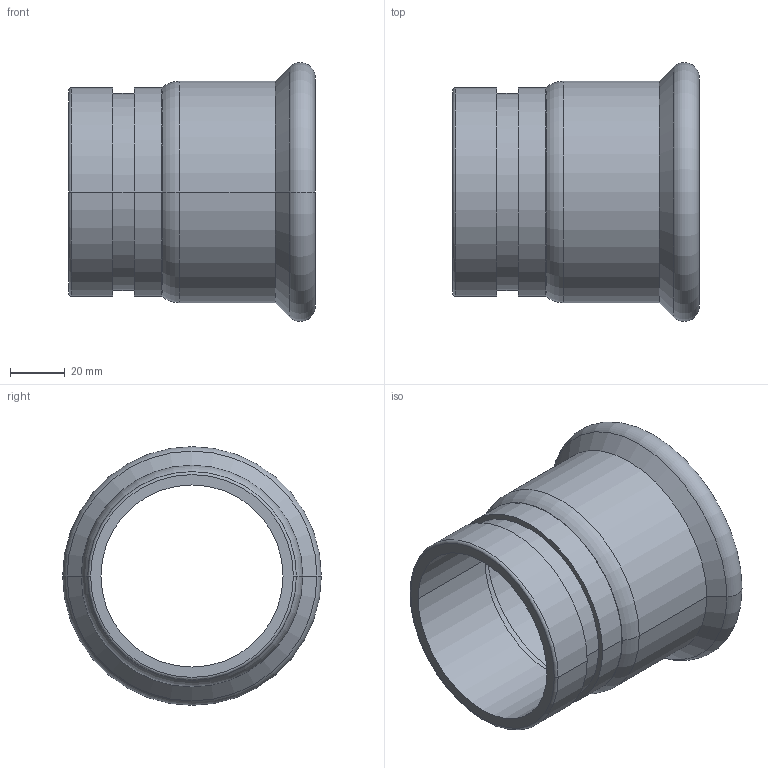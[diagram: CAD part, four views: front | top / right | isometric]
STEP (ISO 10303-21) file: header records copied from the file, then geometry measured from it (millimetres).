
FILE_DESCRIPTION(('CoCreate Modeling STEP Export'),'2;1');
FILE_NAME('C1442-76.1x76.1.stp','2015-08-11T 9:04:19',(''),(''),'CoCreate Modeling STEP processor for AP214 (Solid Model)','CoCreate Modeling 17.00A 17-Jun-2010 (C) Parametric Technology GmbH','');
FILE_SCHEMA(('AUTOMOTIVE_DESIGN { 1 0 10303 214 1 1 1 1 }'));
Length unit declared in the file: millimetre
Products named in the file (2): C1442-76.1x76.1
Assembly tree (1 placements, depth 2):
  C1442-76.1x76.1
    C1442-76.1x76.1
Bounding box: 90 x 94.48 x 94.48 mm (x, y, z)
Volume: 81083.1 mm3; surface area: 48502 mm2
Topology: 1 solids, 1 shells, 31 faces, 62 edges, 36 vertices
Faces by surface type: cylinder 14, torus 6, cone 6, plane 5
Entity records: 704 total; most frequent: ORIENTED_EDGE 124, DIRECTION 108, CARTESIAN_POINT 100, EDGE_CURVE 62, AXIS2_PLACEMENT_3D 44, VERTEX_POINT 36, EDGE_LOOP 36, FACE_OUTER_BOUND 31
